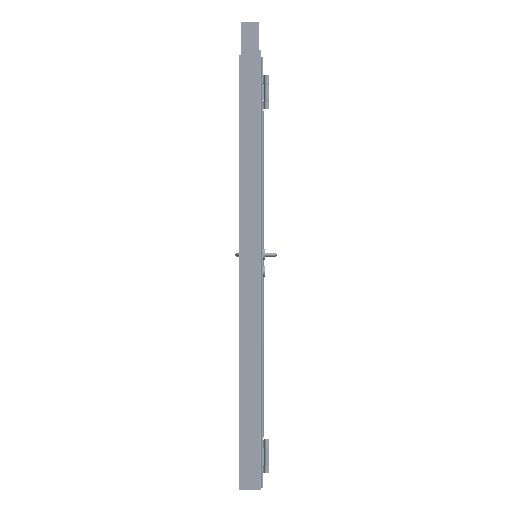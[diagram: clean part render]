
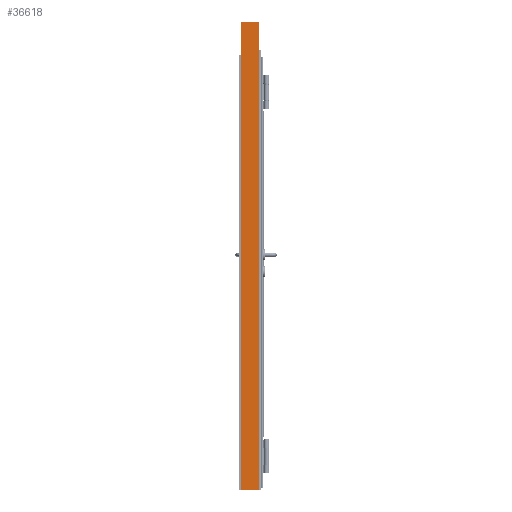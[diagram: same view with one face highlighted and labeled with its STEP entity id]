
A CAD part, left-side view. The second image highlights one B-rep face of the part: STEP entity #36618.
In plain terms, the highlighted planar face has unit normal (-1, 0, 0).
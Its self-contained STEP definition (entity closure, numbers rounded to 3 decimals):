
#36618=ADVANCED_FACE('',(#62487),#52888,.T.);
#52888=PLANE('',#300514);
#62487=FACE_OUTER_BOUND('',#74217,.T.);
#74217=EDGE_LOOP('',(#97344,#97345,#97346,#97347));
#97344=ORIENTED_EDGE('',*,*,#205077,.T.);
#97345=ORIENTED_EDGE('',*,*,#205076,.T.);
#97346=ORIENTED_EDGE('',*,*,#205078,.F.);
#97347=ORIENTED_EDGE('',*,*,#205056,.T.);
#177038=VERTEX_POINT('',#402904);
#177040=VERTEX_POINT('',#402907);
#177052=VERTEX_POINT('',#402943);
#177053=VERTEX_POINT('',#402945);
#205056=EDGE_CURVE('',#177040,#177038,#244917,.T.);
#205076=EDGE_CURVE('',#177052,#177053,#244937,.T.);
#205077=EDGE_CURVE('',#177038,#177052,#244938,.T.);
#205078=EDGE_CURVE('',#177040,#177053,#244939,.T.);
#244917=LINE('',#402906,#272436);
#244937=LINE('',#402946,#272456);
#244938=LINE('',#402948,#272457);
#244939=LINE('',#402949,#272458);
#272436=VECTOR('',#325284,1.);
#272456=VECTOR('',#325316,1.);
#272457=VECTOR('',#325319,1.);
#272458=VECTOR('',#325320,1.);
#300514=AXIS2_PLACEMENT_3D('',#402950,#325321,#325322);
#325284=DIRECTION('',(0.,-1.,0.));
#325316=DIRECTION('',(0.,1.,0.));
#325319=DIRECTION('',(0.,0.,1.));
#325320=DIRECTION('',(0.,0.,1.));
#325321=DIRECTION('',(-1.,0.,0.));
#325322=DIRECTION('',(0.,0.,1.));
#402904=CARTESIAN_POINT('',(-522.5,-46.,-8.));
#402906=CARTESIAN_POINT('',(-522.5,40.,-8.));
#402907=CARTESIAN_POINT('',(-522.5,40.,-8.));
#402943=CARTESIAN_POINT('',(-522.5,-46.,2207.));
#402945=CARTESIAN_POINT('',(-522.5,40.,2207.));
#402946=CARTESIAN_POINT('',(-522.5,40.,2207.));
#402948=CARTESIAN_POINT('',(-522.5,-46.,2207.));
#402949=CARTESIAN_POINT('',(-522.5,40.,2207.));
#402950=CARTESIAN_POINT('',(-522.5,40.,2207.));
